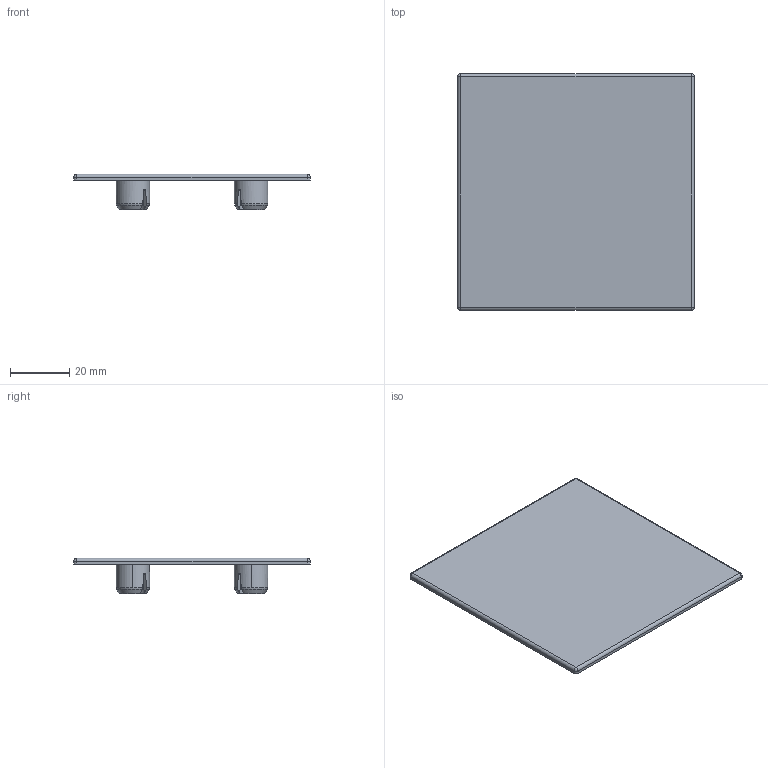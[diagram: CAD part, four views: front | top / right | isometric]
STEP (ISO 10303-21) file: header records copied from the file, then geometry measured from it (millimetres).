
FILE_DESCRIPTION (( 'STEP AP203' ), '1' );
FILE_NAME ('TCBE 80 G NLOGO Cover Cap 80x80 plastic grey No Logo (31-05-2021).STEP', '2021-05-31T15:00:50', ( '' ), ( '' ), 'SwSTEP 2.0', 'SolidWorks 2020', '' );
FILE_SCHEMA (( 'CONFIG_CONTROL_DESIGN' ));
Length unit declared in the file: millimetre
Products named in the file (1): TCBE 80 G NLOGO Cover Cap 80x80 plastic grey No Logo (31-05-2021)
Bounding box: 80 x 80 x 12 mm (x, y, z)
Volume: 11213.5 mm3; surface area: 15945.8 mm2
Topology: 1 solids, 1 shells, 175 faces, 484 edges, 312 vertices
Faces by surface type: plane 79, cylinder 60, bspline 24, cone 12
Entity records: 6463 total; most frequent: CARTESIAN_POINT 2124, ORIENTED_EDGE 960, DIRECTION 848, EDGE_CURVE 480, AXIS2_PLACEMENT_3D 324, VERTEX_POINT 312, LINE 200, VECTOR 200
